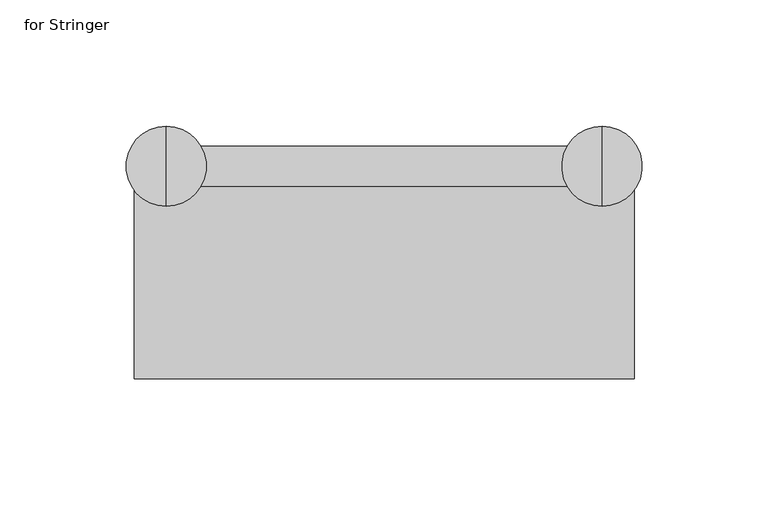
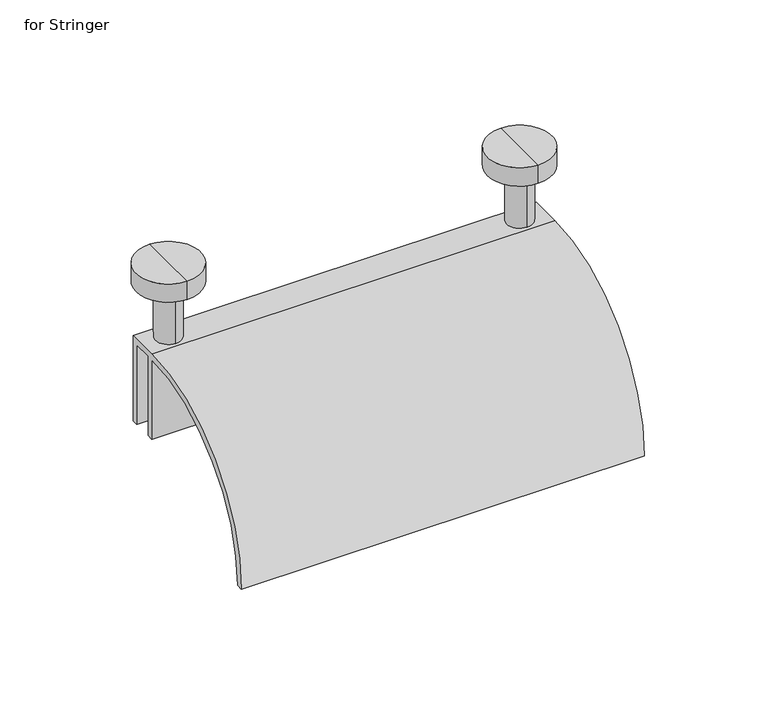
"""IFC4 building model written with IfcOpenShell, lengths in millimetres: electric appliance geometry, Cable_Tray_Accessory-Chatsworth-Radius Drop : for Stringer."""

from ifc_helpers import new_model, si_unit, point, frame, frame_2d, origin, place, context, project, spatial, polyline, circle_curve, trimmed, segment, composite_curve, outline, extrude, source, transform, mapped, element, save
from ifc_brep_helpers import plane_surface, cylinder_surface, advanced_brep


def for_stringer_cd5abf26(model_context):
    return source(origin(), model_context, "Body", "SolidModel", [
        advanced_brep(
        [(86.36, 0.0, 41.275), (86.36, -15.875, 41.275), (86.36, 15.875, 41.275), (86.36, -15.875, 31.75), (86.36, 15.875, 31.75), (86.36, -6.35, 31.75), (86.36, 6.35, 31.75), (86.36, -6.35, 3.175), (86.36, 6.35, 3.175), (86.36, 0.0, 3.175)],
        [
            (0, 1),
            (1, 2, circle_curve(frame((86.36, 0.0, 41.275), z_axis=(0.0, 0.0, 1.0), x_axis=(0.0, -1.0, 0.0)), 15.875)),
            (2, 0),
            (2, 1, circle_curve(frame((86.36, 0.0, 41.275), z_axis=(0.0, 0.0, 1.0), x_axis=(0.0, -1.0, 0.0)), 15.875)),
            (1, 3),
            (3, 4, circle_curve(frame((86.36, 0.0, 31.75), z_axis=(0.0, 0.0, 1.0), x_axis=(0.0, -1.0, 0.0)), 15.875)),
            (4, 2),
            (4, 3, circle_curve(frame((86.36, 0.0, 31.75), z_axis=(0.0, 0.0, 1.0), x_axis=(0.0, -1.0, 0.0)), 15.875)),
            (3, 5),
            (5, 6, circle_curve(frame((86.36, 0.0, 31.75), z_axis=(0.0, 0.0, 1.0), x_axis=(0.0, -1.0, 0.0)), 6.35)),
            (6, 4),
            (6, 5, circle_curve(frame((86.36, 0.0, 31.75), z_axis=(0.0, 0.0, 1.0), x_axis=(0.0, -1.0, 0.0)), 6.35)),
            (5, 7),
            (7, 8, circle_curve(frame((86.36, 0.0, 3.175), z_axis=(0.0, 0.0, 1.0), x_axis=(0.0, -1.0, 0.0)), 6.35)),
            (8, 6),
            (8, 7, circle_curve(frame((86.36, 0.0, 3.175), z_axis=(0.0, 0.0, 1.0), x_axis=(0.0, -1.0, 0.0)), 6.35)),
            (7, 9),
            (9, 8),
        ],
        [
            plane_surface(frame((86.36, 0.0, 41.275), z_axis=(0.0, 0.0, 1.0), x_axis=(0.0, -1.0, 0.0))),
            cylinder_surface(frame((86.36, 0.0, -193.675), z_axis=(0.0, 0.0, 1.0), x_axis=(0.0, -1.0, 0.0)), 15.875),
            plane_surface(frame((86.36, 0.0, 31.75), z_axis=(0.0, 0.0, -1.0), x_axis=(0.0, -1.0, 0.0))),
            cylinder_surface(frame((86.36, 0.0, -193.675), z_axis=(0.0, 0.0, 1.0), x_axis=(0.0, -1.0, 0.0)), 6.35),
            plane_surface(frame((86.36, 0.0, 3.175), z_axis=(0.0, 0.0, -1.0), x_axis=(0.0, -1.0, 0.0))),
        ],
        [
            (0, [[1, 2, 3]]),
            (0, [[-3, 4, -1]]),
            (1, [[-2, 5, 6, 7]]),
            (1, [[-4, -7, 8, -5]]),
            (2, [[-6, 9, 10, 11]]),
            (2, [[-8, -11, 12, -9]]),
            (3, [[-10, 13, 14, 15]]),
            (3, [[-12, -15, 16, -13]]),
            (4, [[-14, 17, 18]]),
            (4, [[-16, -18, -17]]),
        ],
    ),
        advanced_brep(
        [(-86.36, 0.0, 41.275), (-86.36, -15.875, 41.275), (-86.36, 15.875, 41.275), (-86.36, -15.875, 31.75), (-86.36, 15.875, 31.75), (-86.36, -6.35, 31.75), (-86.36, 6.35, 31.75), (-86.36, -6.35, 3.175), (-86.36, 6.35, 3.175), (-86.36, 0.0, 3.175)],
        [
            (0, 1),
            (1, 2, circle_curve(frame((-86.36, 0.0, 41.275), z_axis=(0.0, 0.0, 1.0), x_axis=(0.0, -1.0, 0.0)), 15.875)),
            (2, 0),
            (2, 1, circle_curve(frame((-86.36, 0.0, 41.275), z_axis=(0.0, 0.0, 1.0), x_axis=(0.0, -1.0, 0.0)), 15.875)),
            (1, 3),
            (3, 4, circle_curve(frame((-86.36, 0.0, 31.75), z_axis=(0.0, 0.0, 1.0), x_axis=(0.0, -1.0, 0.0)), 15.875)),
            (4, 2),
            (4, 3, circle_curve(frame((-86.36, 0.0, 31.75), z_axis=(0.0, 0.0, 1.0), x_axis=(0.0, -1.0, 0.0)), 15.875)),
            (3, 5),
            (5, 6, circle_curve(frame((-86.36, 0.0, 31.75), z_axis=(0.0, 0.0, 1.0), x_axis=(0.0, -1.0, 0.0)), 6.35)),
            (6, 4),
            (6, 5, circle_curve(frame((-86.36, 0.0, 31.75), z_axis=(0.0, 0.0, 1.0), x_axis=(0.0, -1.0, 0.0)), 6.35)),
            (5, 7),
            (7, 8, circle_curve(frame((-86.36, 0.0, 3.175), z_axis=(0.0, 0.0, 1.0), x_axis=(0.0, -1.0, 0.0)), 6.35)),
            (8, 6),
            (8, 7, circle_curve(frame((-86.36, 0.0, 3.175), z_axis=(0.0, 0.0, 1.0), x_axis=(0.0, -1.0, 0.0)), 6.35)),
            (7, 9),
            (9, 8),
        ],
        [
            plane_surface(frame((-86.36, 0.0, 41.275), z_axis=(0.0, 0.0, 1.0), x_axis=(0.0, -1.0, 0.0))),
            cylinder_surface(frame((-86.36, 0.0, -193.675), z_axis=(0.0, 0.0, 1.0), x_axis=(0.0, -1.0, 0.0)), 15.875),
            plane_surface(frame((-86.36, 0.0, 31.75), z_axis=(0.0, 0.0, -1.0), x_axis=(0.0, -1.0, 0.0))),
            cylinder_surface(frame((-86.36, 0.0, -193.675), z_axis=(0.0, 0.0, 1.0), x_axis=(0.0, -1.0, 0.0)), 6.35),
            plane_surface(frame((-86.36, 0.0, 3.175), z_axis=(0.0, 0.0, -1.0), x_axis=(0.0, -1.0, 0.0))),
        ],
        [
            (0, [[1, 2, 3]]),
            (0, [[-3, 4, -1]]),
            (1, [[-2, 5, 6, 7]]),
            (1, [[-4, -7, 8, -5]]),
            (2, [[-6, 9, 10, 11]]),
            (2, [[-8, -11, 12, -9]]),
            (3, [[-10, 13, 14, 15]]),
            (3, [[-12, -15, 16, -13]]),
            (4, [[-14, 17, 18]]),
            (4, [[-16, -18, -17]]),
        ],
    ),
        extrude(outline(composite_curve([segment(polyline([(7.9375, 3.175), (7.9375, -41.275), (4.7625, -41.275), (4.7625, 0.0), (-4.7625, 0.0), (-4.7625, -41.275), (-7.9375, -41.275), (-7.9375, 0.0)]), True, "CONTINUOUS"), segment(trimmed(circle_curve(frame_2d((-7.9375, -73.025)), 73.025), [point((-7.9375, 0.0))], [point((-80.9625, -73.025))], True, "CARTESIAN"), True, "CONTINUOUS"), segment(polyline([(-80.9625, -73.025), (-84.1375, -73.025)]), True, "CONTINUOUS"), segment(trimmed(circle_curve(frame_2d((-7.9375, -73.025)), 76.2), [point((-84.1375, -73.025))], [point((-7.9375, 3.175))], False, "CARTESIAN"), True, "CONTINUOUS"), segment(polyline([(-7.9375, 3.175), (7.9375, 3.175)]), True, "CONTINUOUS")], self_intersect=False)), frame((-99.06, 0.0, 0.0), z_axis=(1.0, 0.0, 0.0), x_axis=(0.0, 1.0, 0.0)), (0.0, 0.0, 1.0), 198.12),
    ])


if __name__ == "__main__":
    model = new_model("IFC4")
    model_context = context("Model", 3, world=origin())
    ifc_project = project(units=[si_unit("LENGTHUNIT", "METRE", prefix="MILLI")], contexts=[model_context])
    site = spatial("IfcSite", under=ifc_project)
    building = spatial("IfcBuilding", under=site)
    placement = place(None, origin())
    for_stringer_shape = for_stringer_cd5abf26(model_context)
    element("IfcElectricAppliance", 1, ObjectType="Cable_Tray_Accessory-Chatsworth-Radius Drop : for Stringer", at=placement, inside=building, context=model_context, shape_type="MappedRepresentation", body=[
        mapped(for_stringer_shape, transform((0.0, 0.0, 0.0), x_axis=(1.0, 0.0, 0.0), y_axis=(0.0, 1.0, 0.0), z_axis=(0.0, 0.0, 1.0))),
    ])
    save(model, "model.ifc")
